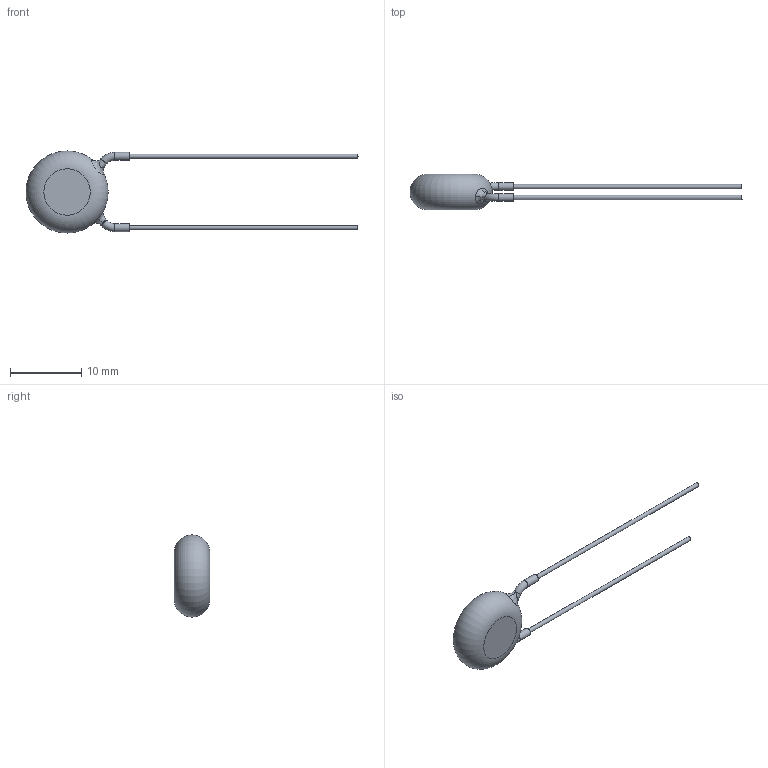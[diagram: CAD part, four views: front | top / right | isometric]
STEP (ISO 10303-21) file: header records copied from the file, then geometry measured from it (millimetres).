
FILE_DESCRIPTION((''),'2;1');
FILE_NAME('I:\Marketing\M6t1\3D-Models\Zchng-Werk-3\Upload for homepage\BCC\AY2\Y5U-10mm\AY2392K43Y5US63L0\AY2392K43Y5US63L0.stp','2015-09-09T08:44:40',(''),(''),'Autodesk Inventor 2013','Autodesk Inventor 2013','');
FILE_SCHEMA(('AUTOMOTIVE_DESIGN { 1 0 10303 214 1 1 1 1 }'));
Length unit declared in the file: centimetre
Products named in the file (1): AY2392K43Y5US63L0
Bounding box: 46.5 x 5 x 11.5 mm (x, y, z)
Volume: 460.4 mm3; surface area: 459 mm2
Topology: 1 solids, 1 shells, 19 faces, 39 edges, 26 vertices
Faces by surface type: cylinder 6, plane 6, bspline 4, torus 3
Full cylindrical faces by diameter (mm): 0.6 x2, 1.1 x2
Entity records: 766 total; most frequent: CARTESIAN_POINT 375, DIRECTION 64, ORIENTED_EDGE 56, AXIS2_PLACEMENT_3D 32, EDGE_LOOP 30, EDGE_CURVE 28, VERTEX_POINT 22, STYLED_ITEM 20
